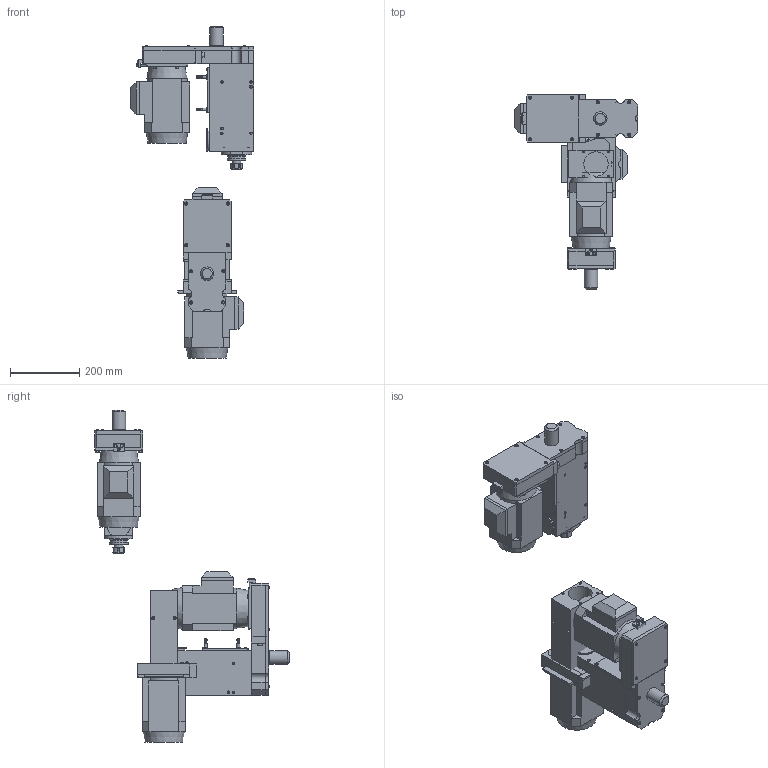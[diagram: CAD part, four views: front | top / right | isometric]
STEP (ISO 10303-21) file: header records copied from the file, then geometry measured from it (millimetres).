
FILE_DESCRIPTION( ( 'STEP AP203' ), '1' );
FILE_NAME( 'C:/Documents and Settings/Saverio/Desktop/disegni ironcad/unità serie 1/F110/F 110_A.stp', '2013-12-12T15:49:21', ( ' ' ), ( ' ' ), 'XStep 1.0', ' ', ' ' );
FILE_SCHEMA( ( 'CONFIG_CONTROL_DESIGN' ) );
Length unit declared in the file: metre
Products named in the file (45): Assem1; Assem2; Assem3; 1; 2; 3; 4; 5; 6; 7; 8; 9; 10; 11; 12; 13; 14; 15; 16; 17; 18; 19; 20; 21; 22; 23; 24; 25; 26; 27; 28; 29; 30; 31; 32; 33; 34; 35; 36; 37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
Bounding box: 356 x 560.32 x 956.62 mm (x, y, z)
Volume: 23651985.1 mm3; surface area: 2002964.2 mm2
Topology: 126 solids, 126 shells, 2160 faces, 4980 edges, 3237 vertices
Faces by surface type: plane 1227, cone 453, cylinder 381, sphere 54, torus 27, bspline 18
Full cylindrical faces by diameter (mm): 1 x18, 2.5 x24, 3.3 x18, 4 x6, 5 x15, 5.5 x45, 5.8 x6, 6.5 x12, 6.647 x6, 6.75 x36, 6.9 x6, 7 x6, 8 x18, 8.385 x3, 8.5 x6, 12.85 x6, 16 x9, 22.5 x3, 23.5 x3, 25 x3, 26 x3, 29 x3, 35 x6, 37 x3, 39 x3, 50 x12, 54 x3, 60 x9, 70 x6
Entity records: 21944 total; most frequent: CARTESIAN_POINT 5005, DIRECTION 3148, ORIENTED_EDGE 2678, EDGE_CURVE 1339, AXIS2_PLACEMENT_3D 1240, EDGE_LOOP 1056, VERTEX_POINT 985, FACE_OUTER_BOUND 840
